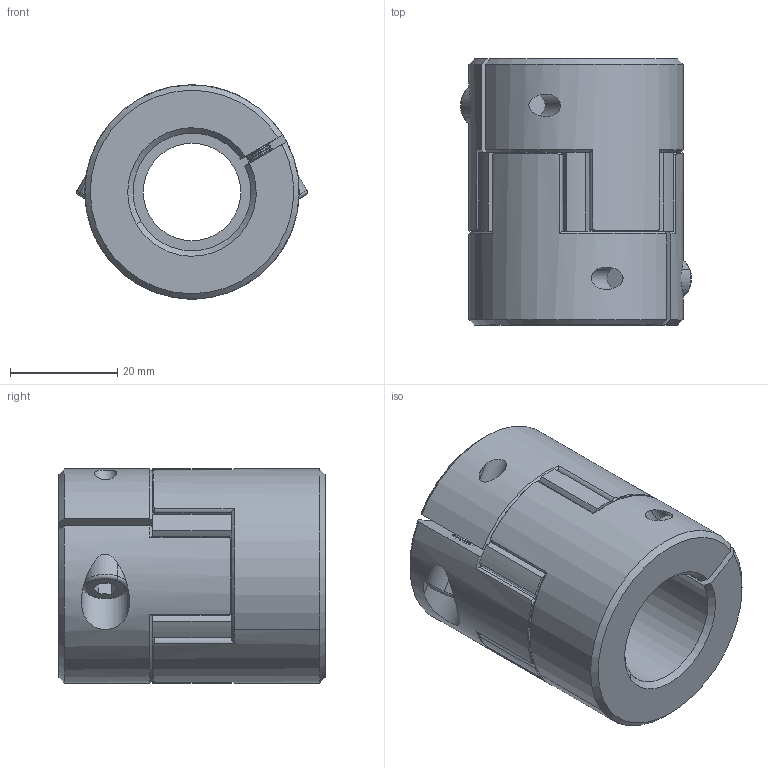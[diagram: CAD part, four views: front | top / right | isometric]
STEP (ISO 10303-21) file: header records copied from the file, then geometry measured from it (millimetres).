
FILE_DESCRIPTION (( 'STEP AP203' ), '1' );
FILE_NAME ('LF-B-D40L50-22-22.STEP', '2021-10-25T03:16:50', ( '' ), ( '' ), 'SwSTEP 2.0', 'SolidWorks 2018', '' );
FILE_SCHEMA (( 'CONFIG_CONTROL_DESIGN' ));
Length unit declared in the file: millimetre
Products named in the file (1): LF-B-D40L50-22-22
Bounding box: 43.11 x 49.7 x 40 mm (x, y, z)
Volume: 43812.6 mm3; surface area: 14808.8 mm2
Topology: 1 solids, 7 shells, 469 faces, 1109 edges, 658 vertices
Faces by surface type: cone 170, cylinder 169, plane 126, torus 4
Entity records: 13892 total; most frequent: CARTESIAN_POINT 2881, DIRECTION 2493, ORIENTED_EDGE 2210, EDGE_CURVE 1105, AXIS2_PLACEMENT_3D 1034, VERTEX_POINT 658, CIRCLE 564, EDGE_LOOP 487
